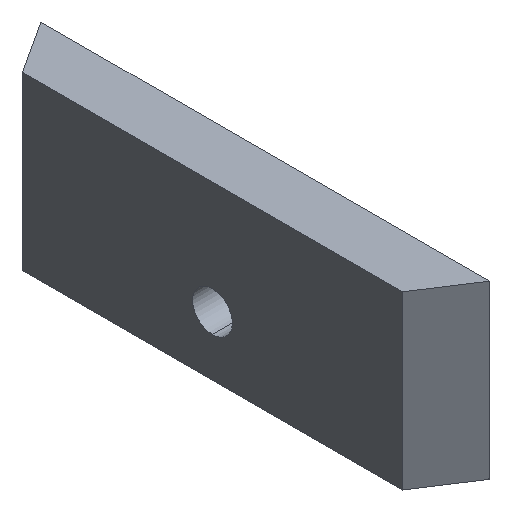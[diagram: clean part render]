
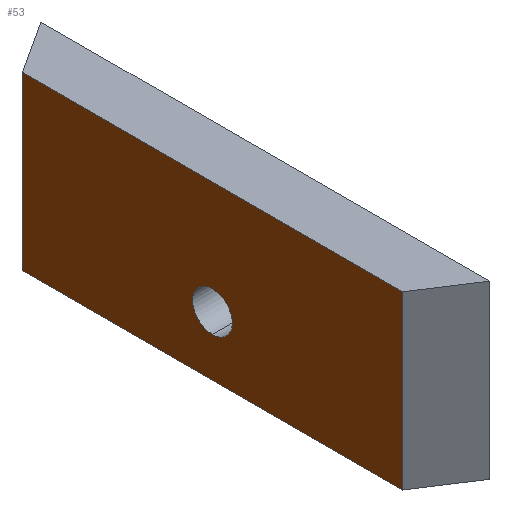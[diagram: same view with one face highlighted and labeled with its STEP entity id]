
A CAD part, isometric view. The second image highlights one B-rep face of the part: STEP entity #53.
In plain terms, the highlighted planar face has unit normal (-1, 0, 0).
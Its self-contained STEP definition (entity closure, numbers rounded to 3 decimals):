
#53=ADVANCED_FACE('',(#65,#66),#67,.T.);
#65=FACE_BOUND('',#84,.T.);
#66=FACE_OUTER_BOUND('',#85,.T.);
#67=PLANE('',#86);
#84=EDGE_LOOP('',(#113,#114));
#85=EDGE_LOOP('',(#115,#116,#117,#118));
#86=AXIS2_PLACEMENT_3D('',#119,#120,#121);
#113=ORIENTED_EDGE('',*,*,#163,.T.);
#114=ORIENTED_EDGE('',*,*,#164,.T.);
#115=ORIENTED_EDGE('',*,*,#166,.T.);
#116=ORIENTED_EDGE('',*,*,#167,.F.);
#117=ORIENTED_EDGE('',*,*,#168,.F.);
#118=ORIENTED_EDGE('',*,*,#169,.T.);
#119=CARTESIAN_POINT('',(-3.999,2.595,29.555));
#120=DIRECTION('',(-1.0,0.,-0.0));
#121=DIRECTION('',(0.0,0.0,-1.0));
#163=EDGE_CURVE('',#179,#183,#185,.T.);
#164=EDGE_CURVE('',#183,#179,#186,.T.);
#166=EDGE_CURVE('',#188,#189,#190,.T.);
#167=EDGE_CURVE('',#191,#189,#192,.T.);
#168=EDGE_CURVE('',#193,#191,#194,.T.);
#169=EDGE_CURVE('',#193,#188,#195,.T.);
#179=VERTEX_POINT('',#209);
#183=VERTEX_POINT('',#214);
#185=CIRCLE('',#217,1.5);
#186=CIRCLE('',#218,1.5);
#188=VERTEX_POINT('',#220);
#189=VERTEX_POINT('',#221);
#190=LINE('',#222,#223);
#191=VERTEX_POINT('',#224);
#192=LINE('',#225,#226);
#193=VERTEX_POINT('',#227);
#194=LINE('',#228,#229);
#195=LINE('',#230,#231);
#209=CARTESIAN_POINT('',(-3.999,16.998,32.555));
#214=CARTESIAN_POINT('',(-3.999,16.998,35.555));
#217=AXIS2_PLACEMENT_3D('',#257,#258,#259);
#218=AXIS2_PLACEMENT_3D('',#260,#261,#262);
#220=CARTESIAN_POINT('',(-3.999,2.595,42.555));
#221=CARTESIAN_POINT('',(-3.999,31.4,42.555));
#222=CARTESIAN_POINT('',(-3.999,2.595,42.555));
#223=VECTOR('',#266,1.0);
#224=CARTESIAN_POINT('',(-3.999,31.4,29.555));
#225=CARTESIAN_POINT('',(-3.999,31.4,29.555));
#226=VECTOR('',#267,0.34);
#227=CARTESIAN_POINT('',(-3.999,2.595,29.555));
#228=CARTESIAN_POINT('',(-3.999,2.595,29.555));
#229=VECTOR('',#268,1.0);
#230=CARTESIAN_POINT('',(-3.999,2.595,29.555));
#231=VECTOR('',#269,0.34);
#257=CARTESIAN_POINT('',(-3.999,16.998,34.055));
#258=DIRECTION('',(1.0,0.,0.0));
#259=DIRECTION('',(0.,0.,-1.0));
#260=CARTESIAN_POINT('',(-3.999,16.998,34.055));
#261=DIRECTION('',(1.0,0.,0.0));
#262=DIRECTION('',(0.,0.,-1.0));
#266=DIRECTION('',(0.,1.0,0.0));
#267=DIRECTION('',(0.0,0.0,1.0));
#268=DIRECTION('',(0.,1.0,0.0));
#269=DIRECTION('',(0.0,0.0,1.0));
